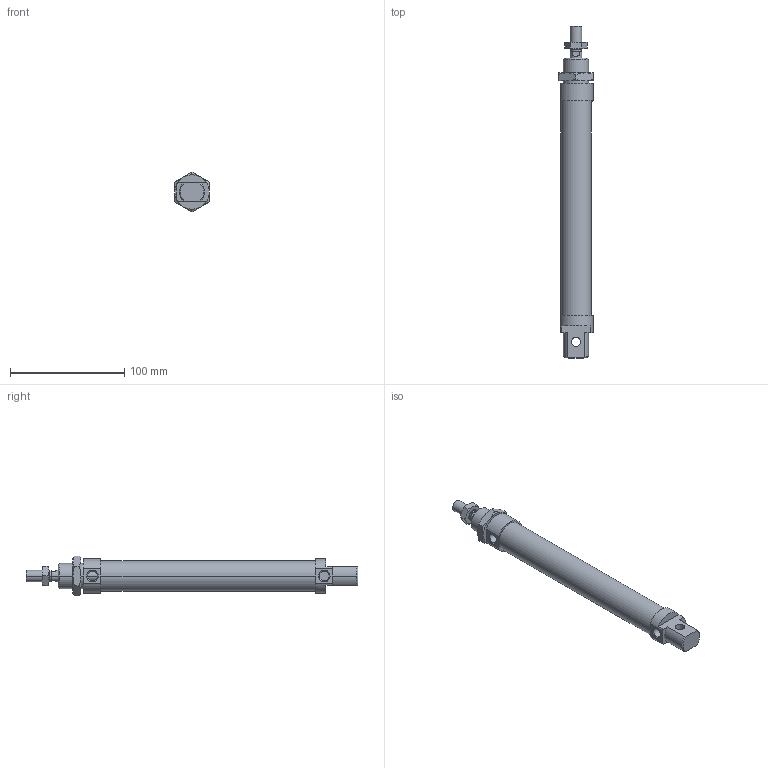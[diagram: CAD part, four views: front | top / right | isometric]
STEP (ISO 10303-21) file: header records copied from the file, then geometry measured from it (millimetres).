
FILE_DESCRIPTION((''),'2;1');
FILE_NAME('I:\DOC-EDP\Lib-3d\1200\CILINDRI\1280\1280_25_0150.stp','2003-04-07T18:00:25',('maffial1'),(''),'Autodesk Inventor (R) 6.0','Autodesk Inventor (R) 6.0','');
FILE_SCHEMA(('AUTOMOTIVE_DESIGN { 1 0 10303 214 1 1 1 1 }'));
Length unit declared in the file: millimetre
Products named in the file (5): 1280_25_0150; S1280_25_150; 1200_25_05; 1200_25_06; C1280_25_150
Assembly tree (4 placements, depth 2):
  1280_25_0150
    S1280_25_150
    1200_25_05
    1200_25_06
    C1280_25_150
Bounding box: 30 x 290 x 34.64 mm (x, y, z)
Volume: 142819 mm3; surface area: 39338.6 mm2
Topology: 4 solids, 4 shells, 124 faces, 281 edges, 170 vertices
Faces by surface type: plane 41, cone 40, cylinder 22, bspline 21
Entity records: 3808 total; most frequent: CARTESIAN_POINT 1031, DIRECTION 573, ORIENTED_EDGE 562, EDGE_CURVE 281, AXIS2_PLACEMENT_3D 236, VERTEX_POINT 170, EDGE_LOOP 137, FACE_OUTER_BOUND 124
